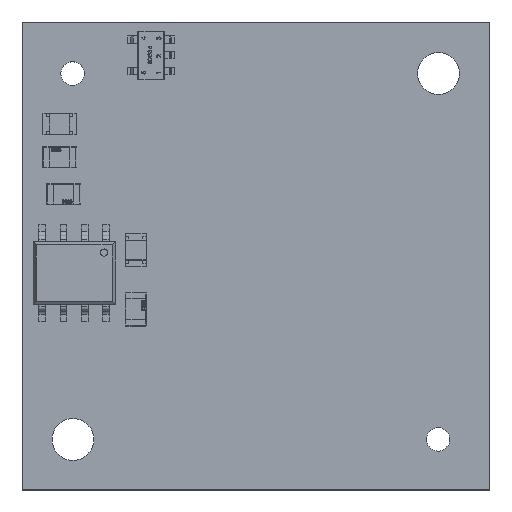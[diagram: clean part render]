
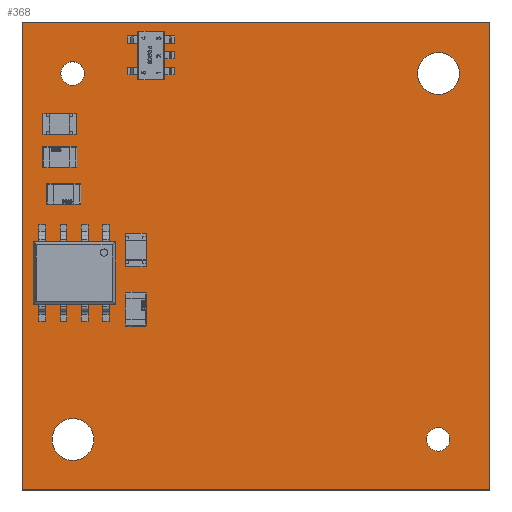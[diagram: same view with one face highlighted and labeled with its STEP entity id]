
A CAD part, top view. The second image highlights one B-rep face of the part: STEP entity #368.
In plain terms, the highlighted planar face has unit normal (0, 0, 1).
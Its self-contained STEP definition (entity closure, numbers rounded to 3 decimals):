
#95 = VERTEX_POINT('',#96);
#96 = CARTESIAN_POINT('',(0.,0.,0.));
#102 = EDGE_CURVE('',#95,#103,#105,.T.);
#103 = VERTEX_POINT('',#104);
#104 = CARTESIAN_POINT('',(0.,28.,0.));
#105 = LINE('',#106,#107);
#106 = CARTESIAN_POINT('',(0.,0.,0.));
#107 = VECTOR('',#108,1.);
#108 = DIRECTION('',(0.,1.,0.));
#133 = EDGE_CURVE('',#103,#134,#136,.T.);
#134 = VERTEX_POINT('',#135);
#135 = CARTESIAN_POINT('',(28.,28.,0.));
#136 = LINE('',#137,#138);
#137 = CARTESIAN_POINT('',(0.,28.,0.));
#138 = VECTOR('',#139,1.);
#139 = DIRECTION('',(1.,0.,0.));
#164 = EDGE_CURVE('',#134,#165,#167,.T.);
#165 = VERTEX_POINT('',#166);
#166 = CARTESIAN_POINT('',(28.,0.,0.));
#167 = LINE('',#168,#169);
#168 = CARTESIAN_POINT('',(28.,28.,0.));
#169 = VECTOR('',#170,1.);
#170 = DIRECTION('',(0.,-1.,0.));
#195 = EDGE_CURVE('',#165,#95,#196,.T.);
#196 = LINE('',#197,#198);
#197 = CARTESIAN_POINT('',(28.,0.,0.));
#198 = VECTOR('',#199,1.);
#199 = DIRECTION('',(-1.,0.,0.));
#219 = VERTEX_POINT('',#220);
#220 = CARTESIAN_POINT('',(4.298,3.023,0.));
#226 = EDGE_CURVE('',#219,#219,#227,.T.);
#227 = CIRCLE('',#228,1.25);
#228 = AXIS2_PLACEMENT_3D('',#229,#230,#231);
#229 = CARTESIAN_POINT('',(3.048,3.023,0.));
#230 = DIRECTION('',(0.,0.,1.));
#231 = DIRECTION('',(1.,0.,0.));
#252 = VERTEX_POINT('',#253);
#253 = CARTESIAN_POINT('',(3.723,24.917,0.));
#259 = EDGE_CURVE('',#252,#252,#260,.T.);
#260 = CIRCLE('',#261,0.7);
#261 = AXIS2_PLACEMENT_3D('',#262,#263,#264);
#262 = CARTESIAN_POINT('',(3.023,24.917,0.));
#263 = DIRECTION('',(0.,0.,1.));
#264 = DIRECTION('',(1.,0.,0.));
#285 = VERTEX_POINT('',#286);
#286 = CARTESIAN_POINT('',(25.592,3.023,0.));
#292 = EDGE_CURVE('',#285,#285,#293,.T.);
#293 = CIRCLE('',#294,0.7);
#294 = AXIS2_PLACEMENT_3D('',#295,#296,#297);
#295 = CARTESIAN_POINT('',(24.892,3.023,0.));
#296 = DIRECTION('',(0.,0.,1.));
#297 = DIRECTION('',(1.,0.,0.));
#318 = VERTEX_POINT('',#319);
#319 = CARTESIAN_POINT('',(26.167,24.917,0.));
#325 = EDGE_CURVE('',#318,#318,#326,.T.);
#326 = CIRCLE('',#327,1.25);
#327 = AXIS2_PLACEMENT_3D('',#328,#329,#330);
#328 = CARTESIAN_POINT('',(24.917,24.917,0.));
#329 = DIRECTION('',(0.,0.,1.));
#330 = DIRECTION('',(1.,0.,0.));
#368 = ADVANCED_FACE('',(#369,#375,#378,#381,#384),#387,.T.);
#369 = FACE_BOUND('',#370,.F.);
#370 = EDGE_LOOP('',(#371,#372,#373,#374));
#371 = ORIENTED_EDGE('',*,*,#102,.T.);
#372 = ORIENTED_EDGE('',*,*,#133,.T.);
#373 = ORIENTED_EDGE('',*,*,#164,.T.);
#374 = ORIENTED_EDGE('',*,*,#195,.T.);
#375 = FACE_BOUND('',#376,.T.);
#376 = EDGE_LOOP('',(#377));
#377 = ORIENTED_EDGE('',*,*,#226,.F.);
#378 = FACE_BOUND('',#379,.T.);
#379 = EDGE_LOOP('',(#380));
#380 = ORIENTED_EDGE('',*,*,#259,.F.);
#381 = FACE_BOUND('',#382,.T.);
#382 = EDGE_LOOP('',(#383));
#383 = ORIENTED_EDGE('',*,*,#292,.F.);
#384 = FACE_BOUND('',#385,.T.);
#385 = EDGE_LOOP('',(#386));
#386 = ORIENTED_EDGE('',*,*,#325,.F.);
#387 = PLANE('',#388);
#388 = AXIS2_PLACEMENT_3D('',#389,#390,#391);
#389 = CARTESIAN_POINT('',(0.,0.,0.));
#390 = DIRECTION('',(0.,0.,1.));
#391 = DIRECTION('',(1.,0.,0.));
